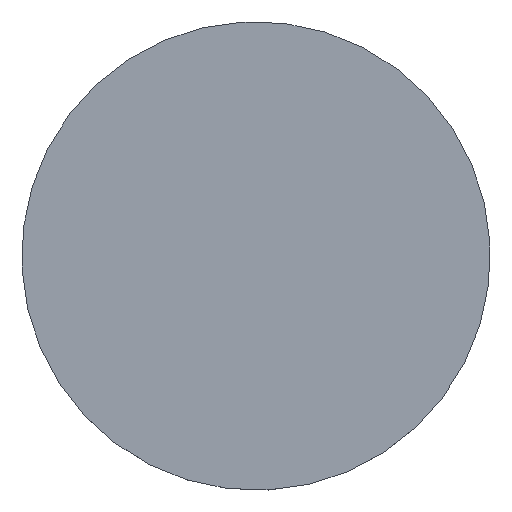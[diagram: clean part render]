
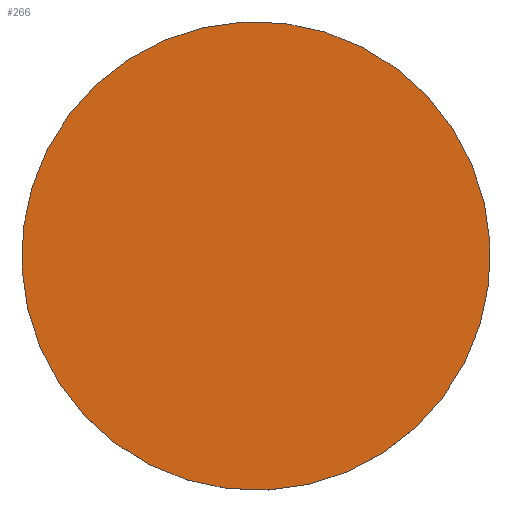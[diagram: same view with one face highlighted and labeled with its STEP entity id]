
A CAD part, top view. The second image highlights one B-rep face of the part: STEP entity #266.
In plain terms, the highlighted planar face has unit normal (0, 0, 1) as drawn and (-1, 0, 0) by its records, which use the part's own axes.
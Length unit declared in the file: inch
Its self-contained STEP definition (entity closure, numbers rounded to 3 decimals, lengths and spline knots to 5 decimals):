
#19 = PLANE ( 'NONE',  #159 ) ;
#51 = CARTESIAN_POINT ( 'NONE',  ( 0., 0., -1.21875 ) ) ;
#79 = EDGE_CURVE ( 'NONE', #198, #184, #297, .T. ) ;
#91 = DIRECTION ( 'NONE',  ( 0., 0., 1. ) ) ;
#101 = DIRECTION ( 'NONE',  ( 0., 0., 1. ) ) ;
#121 = FACE_OUTER_BOUND ( 'NONE', #202, .T. ) ;
#132 = CARTESIAN_POINT ( 'NONE',  ( 0., 0., 0. ) ) ;
#143 = AXIS2_PLACEMENT_3D ( 'NONE', #182, #327, #101 ) ;
#149 = ORIENTED_EDGE ( 'NONE', *, *, #79, .T. ) ;
#159 = AXIS2_PLACEMENT_3D ( 'NONE', #172, #482, #211 ) ;
#172 = CARTESIAN_POINT ( 'NONE',  ( 0., 0., 0. ) ) ;
#182 = CARTESIAN_POINT ( 'NONE',  ( 0., 0., 0. ) ) ;
#184 = VERTEX_POINT ( 'NONE', #51 ) ;
#194 = EDGE_CURVE ( 'NONE', #184, #198, #430, .T. ) ;
#198 = VERTEX_POINT ( 'NONE', #319 ) ;
#202 = EDGE_LOOP ( 'NONE', ( #149, #387 ) ) ;
#211 = DIRECTION ( 'NONE',  ( 0., 0., -1. ) ) ;
#266 = ADVANCED_FACE ( 'NONE', ( #121 ), #19, .F. ) ;
#297 = CIRCLE ( 'NONE', #143, 1.21875 ) ;
#319 = CARTESIAN_POINT ( 'NONE',  ( 0., 0., 1.21875 ) ) ;
#327 = DIRECTION ( 'NONE',  ( -1., 0., 0. ) ) ;
#383 = AXIS2_PLACEMENT_3D ( 'NONE', #132, #391, #91 ) ;
#387 = ORIENTED_EDGE ( 'NONE', *, *, #194, .T. ) ;
#391 = DIRECTION ( 'NONE',  ( -1., 0., 0. ) ) ;
#430 = CIRCLE ( 'NONE', #383, 1.21875 ) ;
#482 = DIRECTION ( 'NONE',  ( 1., 0., 0. ) ) ;
